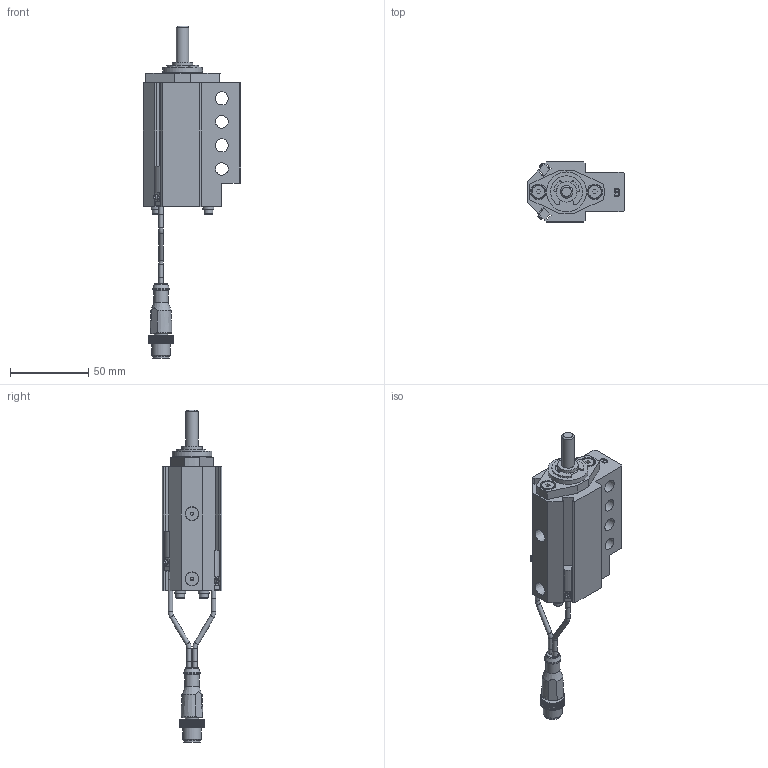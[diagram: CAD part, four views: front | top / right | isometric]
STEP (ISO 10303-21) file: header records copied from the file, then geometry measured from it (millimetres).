
FILE_DESCRIPTION(/* description */ ('NAAMS FLOATING MICRO PIN'),/* implementation_level */ '2;1');
FILE_NAME(/* name */ 'C:\Vault Workspace\CAD\Welker\Shot Pin\NMP\NMP080022EBNL3.stp',/* time_stamp */ '2021-01-28T11:52:11-05:00',/* author */ ('WELKER'),/* organization */ (''),/* preprocessor_version */ 'ST-DEVELOPER v18.1',/* originating_system */ 'Autodesk Inventor 2020',/* authorisation */ '');
FILE_SCHEMA (('AUTOMOTIVE_DESIGN { 1 0 10303 214 3 1 1 }'));
Length unit declared in the file: millimetre
Products named in the file (16): NMPL01; NMP L3 SWITCH; L3 Connector; L3 Sensor 1; L3 Sensor 2; L3 Sensor cable; L3 Sensor cable 2; M3X0.5-8 SHCS; NL3; NMPE06; NMPE03; NMPE04-DIA-LENGTH; 985432A218; NMPE01B-PORT; RMPE02; M5X5 SHOULDER
Assembly tree (22 placements, depth 3):
  NMPL01
    NMP L3 SWITCH
      L3 Connector
      L3 Sensor 1
      L3 Sensor 2
      L3 Sensor cable
      L3 Sensor cable 2
    M3X0.5-8 SHCS  x4
    NL3  x4
    NMPE06
    NMPE03
    NMPE04-DIA-LENGTH
    985432A218
    NMPE01B-PORT
    RMPE02
    M5X5 SHOULDER  x2
Bounding box: 62 x 38.1 x 211.52 mm (x, y, z)
Volume: 110957.4 mm3; surface area: 45369.5 mm2
Topology: 21 solids, 21 shells, 758 faces, 2049 edges, 1369 vertices
Faces by surface type: plane 554, cylinder 144, cone 31, bspline 16, torus 11, sphere 2
Full cylindrical faces by diameter (mm): 2 x2, 2.459 x4, 2.9 x10, 3 x5, 3.242 x2, 3.4 x4, 4 x2, 5 x6, 5.5 x4, 7 x4, 8 x3, 8.3 x2, 8.376 x2, 9 x3, 10 x3, 10.4 x1, 10.5 x1, 12 x1, 13 x3, 16 x2, 19.05 x3, 21 x1, 22.5 x1, 23.672 x1, 24 x1, 25.4 x1, 25.5 x1, 26.5 x1, 28.677 x1, 29.21 x1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
Entity records: 23171 total; most frequent: CARTESIAN_POINT 4361, ORIENTED_EDGE 3796, DIRECTION 3721, EDGE_CURVE 1898, LINE 1393, VECTOR 1393, VERTEX_POINT 1274, AXIS2_PLACEMENT_3D 1164
